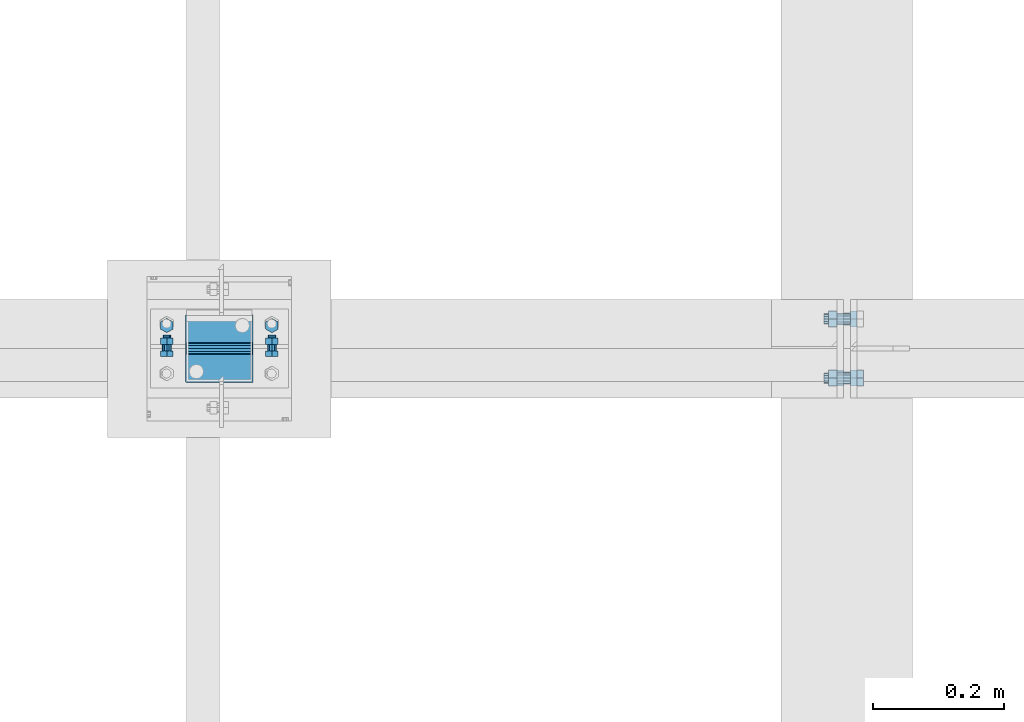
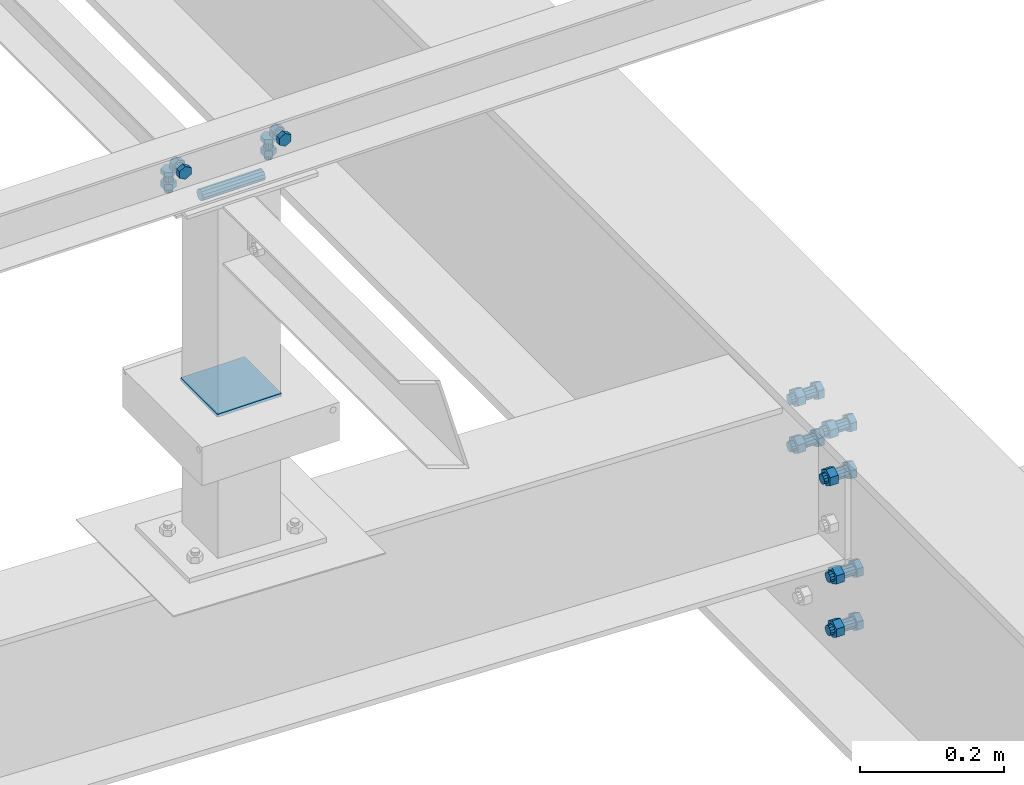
# One storey, part 78 of 3134: 7 mechanical fasteners, 3 elements without a shape of their own.
"""IFC2X3 building model written with IfcOpenShell, lengths in millimetres."""

from ifc_helpers import new_model, si_unit, frame, origin_with_axes, place, context, subcontext, project, spatial, faceted_brep, source, transform, mapped, material, type_object, element, aggregate, save


model = new_model("IFC2X3")

# Units and contexts
model_context = context("Model", 3, precision=1e-05, world=origin_with_axes())
body_context = subcontext(model_context, "Body", "Model", "MODEL_VIEW")
ifc_project = project(units=[si_unit("LENGTHUNIT", "METRE", prefix="MILLI"), si_unit("AREAUNIT", "SQUARE_METRE"), si_unit("VOLUMEUNIT", "CUBIC_METRE"), si_unit("MASSUNIT", "GRAM", prefix="KILO"), si_unit("TIMEUNIT", "SECOND"), si_unit("PLANEANGLEUNIT", "RADIAN"), si_unit("SOLIDANGLEUNIT", "STERADIAN"), si_unit("THERMODYNAMICTEMPERATUREUNIT", "DEGREE_CELSIUS"), si_unit("LUMINOUSINTENSITYUNIT", "LUMEN")], contexts=[model_context])

# Site, building, storey
site_placement = place(None, origin_with_axes())
site = spatial("IfcSite", under=ifc_project, at=site_placement, CompositionType="ELEMENT")
building_placement = place(site_placement, origin_with_axes())
building = spatial("IfcBuilding", under=site, at=building_placement, Name="Undefined", CompositionType="ELEMENT")
storey_placement = place(building_placement, origin_with_axes())
storey = spatial("IfcBuildingStorey", under=building, at=storey_placement, Name="Undefined", CompositionType="ELEMENT", Elevation=0.0)

# Assembly, mechanical fastener
assembly_1_placement = place(storey_placement, origin_with_axes())
assembly_1 = element("IfcElementAssembly", 1, at=assembly_1_placement, inside=storey, AssemblyPlace="NOTDEFINED", PredefinedType="RIGID_FRAME")
ifc_material_1 = material(Name="8.8")
mechanical_fastener_type = type_object("IfcMechanicalFastenerType", Name="Bolt assembly")
shared_shape_1 = source(origin_with_axes(), body_context, "Body", "Brep", [
    faceted_brep([(10.9696551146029, -14.0, 0.0), (5.48482755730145, -14.0, 9.5), (-5.48482755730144, -14.0, 9.5), (-10.9696551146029, -14.0, 1.34339530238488e-15), (-5.48482755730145, -14.0, -9.5), (5.48482755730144, -14.0, -9.50000000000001), (5.48482755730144, -6.0, -9.50000000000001), (-5.48482755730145, -6.0, -9.5), (-10.9696551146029, -6.0, 1.34339530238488e-15), (-5.48482755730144, -6.0, 9.5), (5.48482755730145, -6.0, 9.5), (10.9696551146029, -6.0, 0.0), (6.0, -6.0, 0.0), (5.19615242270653, -6.0, 3.00000000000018), (2.99999999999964, -6.0, 5.19615242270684), (-6.21801588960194e-13, -6.0, 6.0), (-3.00000000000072, -6.0, 5.19615242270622), (-5.19615242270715, -6.0, 2.9999999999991), (-6.0, -6.0, -1.24360317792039e-12), (-5.19615242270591, -6.0, -3.00000000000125), (-2.99999999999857, -6.0, -5.19615242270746), (1.85874342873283e-12, -6.0, -6.0), (3.00000000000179, -6.0, -5.1961524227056), (5.19615242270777, -6.0, -2.99999999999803), (5.19615242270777, 24.0, -2.99999999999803), (3.00000000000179, 24.0, -5.1961524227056), (1.85874342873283e-12, 24.0, -6.0), (-2.99999999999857, 24.0, -5.19615242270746), (-5.19615242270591, 24.0, -3.00000000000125), (-6.0, 24.0, -1.24360317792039e-12), (-5.19615242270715, 24.0, 2.9999999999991), (-3.00000000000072, 24.0, 5.19615242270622), (-6.21801588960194e-13, 24.0, 6.0), (2.99999999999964, 24.0, 5.19615242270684), (5.19615242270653, 24.0, 3.00000000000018), (6.0, 24.0, 0.0), (10.9696551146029, 6.00000000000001, 0.0), (5.48482755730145, 6.00000000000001, 9.5), (-5.48482755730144, 6.00000000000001, 9.5), (-10.9696551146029, 6.00000000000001, 1.34339530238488e-15), (-5.48482755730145, 6.00000000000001, -9.5), (5.48482755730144, 6.00000000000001, -9.50000000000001), (5.48482755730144, 16.0, -9.50000000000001), (-5.48482755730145, 16.0, -9.5), (-10.9696551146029, 16.0, 1.34339530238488e-15), (-5.48482755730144, 16.0, 9.5), (5.48482755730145, 16.0, 9.5), (10.9696551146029, 16.0, 0.0)], [[[0, 1, 2, 3, 4, 5]], [[6, 7, 8, 9, 10, 11]], [[0, 11, 10, 1]], [[1, 10, 9, 2]], [[2, 9, 8, 3]], [[3, 8, 7, 4]], [[4, 7, 6, 5]], [[5, 6, 11, 0]], [[12, 13, 14, 15, 16, 17, 18, 19, 20, 21, 22, 23]], [[24, 25, 26, 27, 28, 29, 30, 31, 32, 33, 34, 35]], [[12, 35, 34, 13]], [[13, 34, 33, 14]], [[14, 33, 32, 15]], [[15, 32, 31, 16]], [[16, 31, 30, 17]], [[17, 30, 29, 18]], [[18, 29, 28, 19]], [[19, 28, 27, 20]], [[20, 27, 26, 21]], [[21, 26, 25, 22]], [[22, 25, 24, 23]], [[23, 24, 35, 12]], [[36, 37, 38, 39, 40, 41]], [[42, 43, 44, 45, 46, 47]], [[36, 47, 46, 37]], [[37, 46, 45, 38]], [[38, 45, 44, 39]], [[39, 44, 43, 40]], [[40, 43, 42, 41]], [[41, 42, 47, 36]]]),
    faceted_brep([(7.0, -0.1, 0.0), (6.06217782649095, -0.1, 3.50000000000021), (3.49999999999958, -0.1, 6.06217782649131), (-7.25435187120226e-13, -0.1, 7.0), (-3.50000000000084, -0.1, 6.06217782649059), (-6.06217782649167, -0.1, 3.49999999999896), (-7.0, -0.1, -1.45087037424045e-12), (-6.06217782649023, -0.1, -3.50000000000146), (-3.49999999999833, -0.1, -6.06217782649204), (2.1685340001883e-12, -0.1, -7.0), (3.50000000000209, -0.1, -6.06217782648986), (6.0621778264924, -0.1, -3.4999999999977), (6.0621778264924, 6.00000000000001, -3.4999999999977), (3.50000000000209, 6.00000000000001, -6.06217782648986), (2.1685340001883e-12, 6.00000000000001, -7.0), (-3.49999999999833, 6.00000000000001, -6.06217782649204), (-6.06217782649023, 6.00000000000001, -3.50000000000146), (-7.0, 6.00000000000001, -1.45087037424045e-12), (-6.06217782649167, 6.00000000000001, 3.49999999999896), (-3.50000000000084, 6.00000000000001, 6.06217782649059), (-7.25435187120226e-13, 6.00000000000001, 7.0), (3.49999999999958, 6.00000000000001, 6.06217782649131), (6.06217782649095, 6.00000000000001, 3.50000000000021), (7.0, 6.00000000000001, 0.0), (7.0, -5.9, 0.0), (6.06217782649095, -5.9, 3.50000000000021), (3.49999999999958, -5.9, 6.06217782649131), (-7.25435187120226e-13, -5.9, 7.0), (-3.50000000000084, -5.9, 6.06217782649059), (-6.06217782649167, -5.9, 3.49999999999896), (-7.0, -5.9, -1.45087037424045e-12), (-6.06217782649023, -5.9, -3.50000000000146), (-3.49999999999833, -5.9, -6.06217782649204), (2.1685340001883e-12, -5.9, -7.0), (3.50000000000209, -5.9, -6.06217782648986), (6.0621778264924, -5.9, -3.4999999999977), (6.0621778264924, 0.0999999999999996, -3.4999999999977), (3.50000000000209, 0.0999999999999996, -6.06217782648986), (2.1685340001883e-12, 0.0999999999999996, -7.0), (-3.49999999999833, 0.0999999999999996, -6.06217782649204), (-6.06217782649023, 0.0999999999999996, -3.50000000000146), (-7.0, 0.0999999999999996, -1.45087037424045e-12), (-6.06217782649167, 0.0999999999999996, 3.49999999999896), (-3.50000000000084, 0.0999999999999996, 6.06217782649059), (-7.25435187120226e-13, 0.0999999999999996, 7.0), (3.49999999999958, 0.0999999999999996, 6.06217782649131), (6.06217782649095, 0.0999999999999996, 3.50000000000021), (7.0, 0.0999999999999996, 0.0)], [[[0, 1, 2, 3, 4, 5, 6, 7, 8, 9, 10, 11]], [[12, 13, 14, 15, 16, 17, 18, 19, 20, 21, 22, 23]], [[0, 23, 22, 1]], [[1, 22, 21, 2]], [[2, 21, 20, 3]], [[3, 20, 19, 4]], [[4, 19, 18, 5]], [[5, 18, 17, 6]], [[6, 17, 16, 7]], [[7, 16, 15, 8]], [[8, 15, 14, 9]], [[9, 14, 13, 10]], [[10, 13, 12, 11]], [[11, 12, 23, 0]], [[24, 25, 26, 27, 28, 29, 30, 31, 32, 33, 34, 35]], [[36, 37, 38, 39, 40, 41, 42, 43, 44, 45, 46, 47]], [[24, 47, 46, 25]], [[25, 46, 45, 26]], [[26, 45, 44, 27]], [[27, 44, 43, 28]], [[28, 43, 42, 29]], [[29, 42, 41, 30]], [[30, 41, 40, 31]], [[31, 40, 39, 32]], [[32, 39, 38, 33]], [[33, 38, 37, 34]], [[34, 37, 36, 35]], [[35, 36, 47, 24]]]),
])
mechanical_fastener_1_placement = place(assembly_1_placement, frame((8340.0, 22016.25, 4365.0), z_axis=(1.0, 0.0, 0.0), x_axis=(0.0, -1.0, 0.0)))
mechanical_fastener_1 = element("IfcMechanicalFastener", 2, at=mechanical_fastener_1_placement, type_object=mechanical_fastener_type, material=ifc_material_1, Name="Bolt assembly", NominalDiameter=12.0, NominalLength=30.0, context=body_context, shape_type="MappedRepresentation", body=[
    mapped(shared_shape_1, transform((0.0, -5.32963895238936e-10, -79.9999999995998))),
    mapped(shared_shape_1, transform((0.0, 5.3114490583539e-10, 79.9999999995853))),
])

# Assembly, mechanical fasteners
assembly_2_placement = place(storey_placement, origin_with_axes())
assembly_2 = element("IfcElementAssembly", 3, at=assembly_2_placement, inside=storey, Name="IPE500", AssemblyPlace="NOTDEFINED", PredefinedType="RIGID_FRAME")
shared_shape_2 = source(origin_with_axes(), body_context, "Body", "Brep", [
    faceted_brep([(13.856406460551, 0.0, 0.0), (6.92820323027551, 0.0, 12.0), (-6.92820323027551, 0.0, 12.0), (-13.856406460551, 0.0, 1.69692038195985e-15), (-6.92820323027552, 0.0, -12.0), (6.9282032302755, 0.0, -12.0), (6.9282032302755, 9.99999995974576, -12.0), (-6.92820323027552, 9.99999995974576, -12.0), (-13.856406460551, 9.99999995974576, 1.69692038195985e-15), (-6.92820323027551, 9.99999995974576, 12.0), (6.92820323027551, 9.99999995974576, 12.0), (13.856406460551, 9.99999995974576, 0.0), (8.0, 9.99999995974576, 0.0), (6.92820323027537, 9.99999995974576, 4.00000000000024), (3.99999999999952, 9.99999995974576, 6.92820323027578), (-8.29068785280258e-13, 9.99999995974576, 8.0), (-4.00000000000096, 9.99999995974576, 6.92820323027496), (-6.9282032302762, 9.99999995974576, 3.99999999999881), (-8.0, 9.99999995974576, -1.65813757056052e-12), (-6.92820323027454, 9.99999995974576, -4.00000000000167), (-3.99999999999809, 9.99999995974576, -6.92820323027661), (2.47832457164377e-12, 9.99999995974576, -8.0), (4.00000000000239, 9.99999995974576, -6.92820323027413), (6.92820323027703, 9.99999995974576, -3.99999999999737), (6.92820323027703, 49.9999999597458, -3.99999999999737), (4.00000000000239, 49.9999999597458, -6.92820323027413), (2.47832457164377e-12, 49.9999999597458, -8.0), (-3.99999999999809, 49.9999999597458, -6.92820323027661), (-6.92820323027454, 49.9999999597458, -4.00000000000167), (-8.0, 49.9999999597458, -1.65813757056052e-12), (-6.9282032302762, 49.9999999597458, 3.99999999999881), (-4.00000000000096, 49.9999999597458, 6.92820323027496), (-8.29068785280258e-13, 49.9999999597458, 8.0), (3.99999999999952, 49.9999999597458, 6.92820323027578), (6.92820323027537, 49.9999999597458, 4.00000000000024), (8.0, 49.9999999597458, 0.0), (13.856406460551, 30.1999997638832, 0.0), (6.92820323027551, 30.1999997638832, 12.0), (-6.92820323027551, 30.1999997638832, 12.0), (-13.856406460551, 30.1999997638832, 1.69692038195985e-15), (-6.92820323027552, 30.1999997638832, -12.0), (6.9282032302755, 30.1999997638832, -12.0), (6.9282032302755, 43.1999997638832, -12.0), (-6.92820323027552, 43.1999997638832, -12.0), (-13.856406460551, 43.1999997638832, 1.69692038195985e-15), (-6.92820323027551, 43.1999997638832, 12.0), (6.92820323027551, 43.1999997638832, 12.0), (13.856406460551, 43.1999997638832, 0.0)], [[[0, 1, 2, 3, 4, 5]], [[6, 7, 8, 9, 10, 11]], [[0, 11, 10, 1]], [[1, 10, 9, 2]], [[2, 9, 8, 3]], [[3, 8, 7, 4]], [[4, 7, 6, 5]], [[5, 6, 11, 0]], [[12, 13, 14, 15, 16, 17, 18, 19, 20, 21, 22, 23]], [[24, 25, 26, 27, 28, 29, 30, 31, 32, 33, 34, 35]], [[12, 35, 34, 13]], [[13, 34, 33, 14]], [[14, 33, 32, 15]], [[15, 32, 31, 16]], [[16, 31, 30, 17]], [[17, 30, 29, 18]], [[18, 29, 28, 19]], [[19, 28, 27, 20]], [[20, 27, 26, 21]], [[21, 26, 25, 22]], [[22, 25, 24, 23]], [[23, 24, 35, 12]], [[36, 37, 38, 39, 40, 41]], [[42, 43, 44, 45, 46, 47]], [[36, 47, 46, 37]], [[37, 46, 45, 38]], [[38, 45, 44, 39]], [[39, 44, 43, 40]], [[40, 43, 42, 41]], [[41, 42, 47, 36]]]),
    faceted_brep([(9.0, 20.0999997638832, 0.0), (7.79422863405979, 20.0999997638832, 4.50000000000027), (4.49999999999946, 20.0999997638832, 7.79422863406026), (-9.3270238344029e-13, 20.0999997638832, 9.0), (-4.50000000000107, 20.0999997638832, 7.79422863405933), (-7.79422863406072, 20.0999997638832, 4.49999999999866), (-9.0, 20.0999997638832, -1.86540476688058e-12), (-7.79422863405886, 20.0999997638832, -4.50000000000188), (-4.49999999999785, 20.0999997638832, -7.79422863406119), (2.78811514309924e-12, 20.0999997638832, -9.0), (4.50000000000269, 20.0999997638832, -7.7942286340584), (7.79422863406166, 20.0999997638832, -4.49999999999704), (7.79422863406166, 30.1999997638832, -4.49999999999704), (4.50000000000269, 30.1999997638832, -7.7942286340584), (2.78811514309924e-12, 30.1999997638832, -9.0), (-4.49999999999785, 30.1999997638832, -7.79422863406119), (-7.79422863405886, 30.1999997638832, -4.50000000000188), (-9.0, 30.1999997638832, -1.86540476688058e-12), (-7.79422863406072, 30.1999997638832, 4.49999999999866), (-4.50000000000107, 30.1999997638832, 7.79422863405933), (-9.3270238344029e-13, 30.1999997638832, 9.0), (4.49999999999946, 30.1999997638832, 7.79422863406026), (7.79422863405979, 30.1999997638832, 4.50000000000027), (9.0, 30.1999997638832, 0.0), (9.0, 10.1000023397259, 0.0), (7.79422863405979, 10.1000023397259, 4.50000000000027), (4.49999999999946, 10.1000023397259, 7.79422863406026), (-9.3270238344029e-13, 10.1000023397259, 9.0), (-4.50000000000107, 10.1000023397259, 7.79422863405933), (-7.79422863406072, 10.1000023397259, 4.49999999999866), (-9.0, 10.1000023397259, -1.86540476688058e-12), (-7.79422863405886, 10.1000023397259, -4.50000000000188), (-4.49999999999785, 10.1000023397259, -7.79422863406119), (2.78811514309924e-12, 10.1000023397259, -9.0), (4.50000000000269, 10.1000023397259, -7.7942286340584), (7.79422863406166, 10.1000023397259, -4.49999999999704), (7.79422863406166, 20.2999997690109, -4.49999999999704), (4.50000000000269, 20.2999997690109, -7.7942286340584), (2.78811514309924e-12, 20.2999997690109, -9.0), (-4.49999999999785, 20.2999997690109, -7.79422863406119), (-7.79422863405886, 20.2999997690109, -4.50000000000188), (-9.0, 20.2999997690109, -1.86540476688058e-12), (-7.79422863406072, 20.2999997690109, 4.49999999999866), (-4.50000000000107, 20.2999997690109, 7.79422863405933), (-9.3270238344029e-13, 20.2999997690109, 9.0), (4.49999999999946, 20.2999997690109, 7.79422863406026), (7.79422863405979, 20.2999997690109, 4.50000000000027), (9.0, 20.2999997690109, 0.0)], [[[0, 1, 2, 3, 4, 5, 6, 7, 8, 9, 10, 11]], [[12, 13, 14, 15, 16, 17, 18, 19, 20, 21, 22, 23]], [[0, 23, 22, 1]], [[1, 22, 21, 2]], [[2, 21, 20, 3]], [[3, 20, 19, 4]], [[4, 19, 18, 5]], [[5, 18, 17, 6]], [[6, 17, 16, 7]], [[7, 16, 15, 8]], [[8, 15, 14, 9]], [[9, 14, 13, 10]], [[10, 13, 12, 11]], [[11, 12, 23, 0]], [[24, 25, 26, 27, 28, 29, 30, 31, 32, 33, 34, 35]], [[36, 37, 38, 39, 40, 41, 42, 43, 44, 45, 46, 47]], [[24, 47, 46, 25]], [[25, 46, 45, 26]], [[26, 45, 44, 27]], [[27, 44, 43, 28]], [[28, 43, 42, 29]], [[29, 42, 41, 30]], [[30, 41, 40, 31]], [[31, 40, 39, 32]], [[32, 39, 38, 33]], [[33, 38, 37, 34]], [[34, 37, 36, 35]], [[35, 36, 47, 24]]]),
])
mechanical_fastener_2_placement = place(assembly_2_placement, frame((9310.09999986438, 21936.25, 3631.67000001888), z_axis=(0.0, 1.0, 0.0), x_axis=(0.0, 0.0, -1.0)))
mechanical_fastener_2 = element("IfcMechanicalFastener", 4, at=mechanical_fastener_2_placement, type_object=mechanical_fastener_type, material=ifc_material_1, Name="Bolt assembly", NominalDiameter=16.0, NominalLength=40.0, context=body_context, shape_type="MappedRepresentation", body=[
    mapped(shared_shape_2, transform((0.0, 0.0, 0.0))),
    mapped(shared_shape_2, transform((80.0, 0.0, 0.0))),
])
mechanical_fastener_3_placement = place(assembly_2_placement, frame((9310.09999986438, 22026.25, 3631.67000001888), z_axis=(0.0, 1.0, 0.0), x_axis=(0.0, 0.0, -1.0)))
mechanical_fastener_3 = element("IfcMechanicalFastener", 5, at=mechanical_fastener_3_placement, type_object=mechanical_fastener_type, material=ifc_material_1, Name="Bolt assembly", NominalDiameter=16.0, NominalLength=40.0, context=body_context, shape_type="MappedRepresentation", body=[
    mapped(shared_shape_2, transform((0.0, 0.0, 0.0))),
    mapped(shared_shape_2, transform((80.0, 0.0, 0.0))),
])
shared_shape_3 = source(origin_with_axes(), body_context, "Body", "Brep", [
    faceted_brep([(13.856406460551, -10.0, 0.0), (6.92820323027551, -10.0, 12.0), (-6.92820323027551, -10.0, 12.0), (-13.856406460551, -10.0, 1.69692038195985e-15), (-6.92820323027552, -10.0, -12.0), (6.9282032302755, -10.0, -12.0), (6.9282032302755, 0.0, -12.0), (-6.92820323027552, 0.0, -12.0), (-13.856406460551, 0.0, 1.69692038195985e-15), (-6.92820323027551, 0.0, 12.0), (6.92820323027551, 0.0, 12.0), (13.856406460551, 0.0, 0.0), (8.0, 0.0, 0.0), (6.92820323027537, 0.0, 4.00000000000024), (3.99999999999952, 0.0, 6.92820323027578), (-8.29068785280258e-13, 0.0, 8.0), (-4.00000000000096, 0.0, 6.92820323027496), (-6.9282032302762, 0.0, 3.99999999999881), (-8.0, 0.0, -1.65813757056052e-12), (-6.92820323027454, 0.0, -4.00000000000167), (-3.99999999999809, 0.0, -6.92820323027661), (2.47832457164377e-12, 0.0, -8.0), (4.00000000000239, 0.0, -6.92820323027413), (6.92820323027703, 0.0, -3.99999999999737), (6.92820323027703, 40.0, -3.99999999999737), (4.00000000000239, 40.0, -6.92820323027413), (2.47832457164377e-12, 40.0, -8.0), (-3.99999999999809, 40.0, -6.92820323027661), (-6.92820323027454, 40.0, -4.00000000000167), (-8.0, 40.0, -1.65813757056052e-12), (-6.9282032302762, 40.0, 3.99999999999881), (-4.00000000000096, 40.0, 6.92820323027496), (-8.29068785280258e-13, 40.0, 8.0), (3.99999999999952, 40.0, 6.92820323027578), (6.92820323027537, 40.0, 4.00000000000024), (8.0, 40.0, 0.0), (13.856406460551, 20.1999997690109, 0.0), (6.92820323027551, 20.1999997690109, 12.0), (-6.92820323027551, 20.1999997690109, 12.0), (-13.856406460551, 20.1999997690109, 1.69692038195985e-15), (-6.92820323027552, 20.1999997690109, -12.0), (6.9282032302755, 20.1999997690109, -12.0), (6.9282032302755, 33.1999997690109, -12.0), (-6.92820323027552, 33.1999997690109, -12.0), (-13.856406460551, 33.1999997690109, 1.69692038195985e-15), (-6.92820323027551, 33.1999997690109, 12.0), (6.92820323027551, 33.1999997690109, 12.0), (13.856406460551, 33.1999997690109, 0.0)], [[[0, 1, 2, 3, 4, 5]], [[6, 7, 8, 9, 10, 11]], [[0, 11, 10, 1]], [[1, 10, 9, 2]], [[2, 9, 8, 3]], [[3, 8, 7, 4]], [[4, 7, 6, 5]], [[5, 6, 11, 0]], [[12, 13, 14, 15, 16, 17, 18, 19, 20, 21, 22, 23]], [[24, 25, 26, 27, 28, 29, 30, 31, 32, 33, 34, 35]], [[12, 35, 34, 13]], [[13, 34, 33, 14]], [[14, 33, 32, 15]], [[15, 32, 31, 16]], [[16, 31, 30, 17]], [[17, 30, 29, 18]], [[18, 29, 28, 19]], [[19, 28, 27, 20]], [[20, 27, 26, 21]], [[21, 26, 25, 22]], [[22, 25, 24, 23]], [[23, 24, 35, 12]], [[36, 37, 38, 39, 40, 41]], [[42, 43, 44, 45, 46, 47]], [[36, 47, 46, 37]], [[37, 46, 45, 38]], [[38, 45, 44, 39]], [[39, 44, 43, 40]], [[40, 43, 42, 41]], [[41, 42, 47, 36]]]),
    faceted_brep([(9.0, 0.100000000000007, 0.0), (7.79422863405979, 0.100000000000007, 4.50000000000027), (4.49999999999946, 0.100000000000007, 7.79422863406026), (-9.3270238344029e-13, 0.100000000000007, 9.0), (-4.50000000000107, 0.100000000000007, 7.79422863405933), (-7.79422863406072, 0.100000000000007, 4.49999999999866), (-9.0, 0.100000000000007, -1.86540476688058e-12), (-7.79422863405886, 0.100000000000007, -4.50000000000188), (-4.49999999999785, 0.100000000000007, -7.79422863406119), (2.78811514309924e-12, 0.100000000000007, -9.0), (4.50000000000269, 0.100000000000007, -7.7942286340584), (7.79422863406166, 0.100000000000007, -4.49999999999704), (7.79422863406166, 10.1000023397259, -4.49999999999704), (4.50000000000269, 10.1000023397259, -7.7942286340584), (2.78811514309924e-12, 10.1000023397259, -9.0), (-4.49999999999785, 10.1000023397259, -7.79422863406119), (-7.79422863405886, 10.1000023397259, -4.50000000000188), (-9.0, 10.1000023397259, -1.86540476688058e-12), (-7.79422863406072, 10.1000023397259, 4.49999999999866), (-4.50000000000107, 10.1000023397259, 7.79422863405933), (-9.3270238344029e-13, 10.1000023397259, 9.0), (4.49999999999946, 10.1000023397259, 7.79422863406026), (7.79422863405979, 10.1000023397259, 4.50000000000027), (9.0, 10.1000023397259, 0.0), (9.0, 9.89999999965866, 0.0), (7.79422863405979, 9.89999999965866, 4.50000000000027), (4.49999999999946, 9.89999999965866, 7.79422863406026), (-9.3270238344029e-13, 9.89999999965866, 9.0), (-4.50000000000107, 9.89999999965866, 7.79422863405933), (-7.79422863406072, 9.89999999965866, 4.49999999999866), (-9.0, 9.89999999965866, -1.86540476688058e-12), (-7.79422863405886, 9.89999999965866, -4.50000000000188), (-4.49999999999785, 9.89999999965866, -7.79422863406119), (2.78811514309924e-12, 9.89999999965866, -9.0), (4.50000000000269, 9.89999999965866, -7.7942286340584), (7.79422863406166, 9.89999999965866, -4.49999999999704), (7.79422863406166, 20.1999997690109, -4.49999999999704), (4.50000000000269, 20.1999997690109, -7.7942286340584), (2.78811514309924e-12, 20.1999997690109, -9.0), (-4.49999999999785, 20.1999997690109, -7.79422863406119), (-7.79422863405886, 20.1999997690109, -4.50000000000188), (-9.0, 20.1999997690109, -1.86540476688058e-12), (-7.79422863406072, 20.1999997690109, 4.49999999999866), (-4.50000000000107, 20.1999997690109, 7.79422863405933), (-9.3270238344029e-13, 20.1999997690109, 9.0), (4.49999999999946, 20.1999997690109, 7.79422863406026), (7.79422863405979, 20.1999997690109, 4.50000000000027), (9.0, 20.1999997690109, 0.0)], [[[0, 1, 2, 3, 4, 5, 6, 7, 8, 9, 10, 11]], [[12, 13, 14, 15, 16, 17, 18, 19, 20, 21, 22, 23]], [[0, 23, 22, 1]], [[1, 22, 21, 2]], [[2, 21, 20, 3]], [[3, 20, 19, 4]], [[4, 19, 18, 5]], [[5, 18, 17, 6]], [[6, 17, 16, 7]], [[7, 16, 15, 8]], [[8, 15, 14, 9]], [[9, 14, 13, 10]], [[10, 13, 12, 11]], [[11, 12, 23, 0]], [[24, 25, 26, 27, 28, 29, 30, 31, 32, 33, 34, 35]], [[36, 37, 38, 39, 40, 41, 42, 43, 44, 45, 46, 47]], [[24, 47, 46, 25]], [[25, 46, 45, 26]], [[26, 45, 44, 27]], [[27, 44, 43, 28]], [[28, 43, 42, 29]], [[29, 42, 41, 30]], [[30, 41, 40, 31]], [[31, 40, 39, 32]], [[32, 39, 38, 33]], [[33, 38, 37, 34]], [[34, 37, 36, 35]], [[35, 36, 47, 24]]]),
])
mechanical_fastener_4_placement = place(assembly_2_placement, frame((9310.09999986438, 21936.25, 3381.67000001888), z_axis=(0.0, 1.0, 0.0), x_axis=(0.0, 0.0, -1.0)))
mechanical_fastener_4 = element("IfcMechanicalFastener", 6, at=mechanical_fastener_4_placement, type_object=mechanical_fastener_type, material=ifc_material_1, Name="Bolt assembly", NominalDiameter=16.0, NominalLength=40.0, context=body_context, shape_type="MappedRepresentation", body=[
    mapped(shared_shape_3, transform((0.0, 0.0, 0.0))),
    mapped(shared_shape_3, transform((90.0, 0.0, 0.0))),
])
aggregate(assembly_2, [mechanical_fastener_2, mechanical_fastener_3, mechanical_fastener_4])

assembly_3_placement = place(storey_placement, origin_with_axes())
assembly_3 = element("IfcElementAssembly", 7, at=assembly_3_placement, inside=storey, AssemblyPlace="NOTDEFINED", PredefinedType="RIGID_FRAME")
shared_shape_4 = source(origin_with_axes(), body_context, "Body", "Brep", [
    faceted_brep([(9.0, -50.0, 0.0), (7.79422863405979, -50.0, 4.50000000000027), (4.49999999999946, -50.0, 7.79422863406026), (-9.3270238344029e-13, -50.0, 9.0), (-4.50000000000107, -50.0, 7.79422863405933), (-7.79422863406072, -50.0, 4.49999999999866), (-9.0, -50.0, -1.86540476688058e-12), (-7.79422863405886, -50.0, -4.50000000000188), (-4.49999999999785, -50.0, -7.79422863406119), (2.78811514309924e-12, -50.0, -9.0), (4.50000000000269, -50.0, -7.7942286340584), (7.79422863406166, -50.0, -4.49999999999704), (7.79422863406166, 50.1, -4.49999999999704), (4.50000000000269, 50.1, -7.7942286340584), (2.78811514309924e-12, 50.1, -9.0), (-4.49999999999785, 50.1, -7.79422863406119), (-7.79422863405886, 50.1, -4.50000000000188), (-9.0, 50.1, -1.86540476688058e-12), (-7.79422863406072, 50.1, 4.49999999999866), (-4.50000000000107, 50.1, 7.79422863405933), (-9.3270238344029e-13, 50.1, 9.0), (4.49999999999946, 50.1, 7.79422863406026), (7.79422863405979, 50.1, 4.50000000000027), (9.0, 50.1, 0.0)], [[[0, 1, 2, 3, 4, 5, 6, 7, 8, 9, 10, 11]], [[12, 13, 14, 15, 16, 17, 18, 19, 20, 21, 22, 23]], [[0, 23, 22, 1]], [[1, 22, 21, 2]], [[2, 21, 20, 3]], [[3, 20, 19, 4]], [[4, 19, 18, 5]], [[5, 18, 17, 6]], [[6, 17, 16, 7]], [[7, 16, 15, 8]], [[8, 15, 14, 9]], [[9, 14, 13, 10]], [[10, 13, 12, 11]], [[11, 12, 23, 0]]]),
])
mechanical_fastener_5_placement = place(assembly_3_placement, frame((8340.0, 21981.25, 4345.0), z_axis=(0.0, 1.0, 0.0), x_axis=(0.0, 0.0, 1.0)))
mechanical_fastener_5 = element("IfcMechanicalFastener", 8, at=mechanical_fastener_5_placement, type_object=mechanical_fastener_type, material=ifc_material_1, Name="Bolt assembly", NominalDiameter=16.0, NominalLength=100.0, context=body_context, shape_type="MappedRepresentation", body=[
    mapped(shared_shape_4, transform((0.0, 0.0, 0.0))),
])
ifc_material_2 = material(Name="6.8")
shared_shape_5 = source(origin_with_axes(), body_context, "Body", "Brep", [
    faceted_brep([(51.5, 1.36424205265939e-12, 50.0), (51.3858192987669, 1.36424205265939e-12, 50.5740251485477), (51.0606601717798, 1.36424205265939e-12, 51.0606601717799), (50.5740251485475, 1.36424205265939e-12, 51.385819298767), (-50.0000000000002, 1.36424205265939e-12, 51.5), (-50.7500000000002, 1.36424205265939e-12, 51.2990381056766), (-51.2990381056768, 1.36424205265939e-12, 50.7499999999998), (-51.5, 1.36424205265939e-12, 49.9999999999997), (-51.5, 1.36424205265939e-12, -50.0000000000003), (-51.2990381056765, 1.36424205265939e-12, -50.7500000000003), (-50.7499999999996, 1.36424205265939e-12, -51.2990381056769), (-49.9999999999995, 1.36424205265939e-12, -51.5), (50.0000000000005, 1.36424205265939e-12, -51.5), (50.7500000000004, 1.36424205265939e-12, -51.2990381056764), (51.2990381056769, 1.36424205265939e-12, -50.7499999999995), (51.5, 1.36424205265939e-12, -49.9999999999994), (51.5, 5.10000000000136, -49.9999999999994), (51.2990381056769, 5.10000000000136, -50.7499999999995), (50.7500000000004, 5.10000000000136, -51.2990381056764), (50.0000000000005, 5.10000000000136, -51.5), (-49.9999999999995, 5.10000000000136, -51.5), (-50.7499999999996, 5.10000000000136, -51.2990381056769), (-51.2990381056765, 5.10000000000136, -50.7500000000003), (-51.5, 5.10000000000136, -50.0000000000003), (-51.5, 5.10000000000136, 49.9999999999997), (-51.2990381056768, 5.10000000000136, 50.7499999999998), (-50.7500000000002, 5.10000000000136, 51.2990381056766), (-50.0000000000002, 5.10000000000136, 51.5), (50.5740251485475, 5.10000000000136, 51.385819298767), (51.0606601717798, 5.10000000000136, 51.0606601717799), (51.3858192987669, 5.10000000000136, 50.5740251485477), (51.5, 5.10000000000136, 50.0)], [[[0, 1, 2, 3, 4, 5, 6, 7, 8, 9, 10, 11, 12, 13, 14, 15]], [[16, 17, 18, 19, 20, 21, 22, 23, 24, 25, 26, 27, 28, 29, 30, 31]], [[0, 31, 30, 1]], [[1, 30, 29, 2]], [[2, 29, 28, 3]], [[3, 28, 27, 4]], [[4, 27, 26, 5]], [[5, 26, 25, 6]], [[6, 25, 24, 7]], [[7, 24, 23, 8]], [[8, 23, 22, 9]], [[9, 22, 21, 10]], [[10, 21, 20, 11]], [[11, 20, 19, 12]], [[12, 19, 18, 13]], [[13, 18, 17, 14]], [[14, 17, 16, 15]], [[15, 16, 31, 0]]]),
])
mechanical_fastener_6_placement = place(assembly_3_placement, frame((8340.0, 21981.25, 4004.89), z_axis=(0.0, -1.0, 0.0), x_axis=(-1.0, 0.0, 0.0)))
mechanical_fastener_6 = element("IfcMechanicalFastener", 9, at=mechanical_fastener_6_placement, type_object=mechanical_fastener_type, material=ifc_material_2, Name="Bolt assembly", NominalDiameter=10.0, NominalLength=5.0, context=body_context, shape_type="MappedRepresentation", body=[
    mapped(shared_shape_5, transform((0.0, 0.0, 0.0))),
])
aggregate(assembly_3, [mechanical_fastener_5, mechanical_fastener_6])

# Mechanical fastener
shared_shape_6 = source(origin_with_axes(), body_context, "Body", "Brep", [
    faceted_brep([(10.9696551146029, -12.0, 0.0), (5.48482755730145, -12.0, 9.5), (-5.48482755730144, -12.0, 9.5), (-10.9696551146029, -12.0, 1.34339530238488e-15), (-5.48482755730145, -12.0, -9.5), (5.48482755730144, -12.0, -9.50000000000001), (5.48482755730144, -4.0, -9.50000000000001), (-5.48482755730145, -4.0, -9.5), (-10.9696551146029, -4.0, 1.34339530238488e-15), (-5.48482755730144, -4.0, 9.5), (5.48482755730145, -4.0, 9.5), (10.9696551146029, -4.0, 0.0), (6.0, -4.0, 0.0), (5.19615242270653, -4.0, 3.00000000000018), (2.99999999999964, -4.0, 5.19615242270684), (-6.21801588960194e-13, -4.0, 6.0), (-3.00000000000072, -4.0, 5.19615242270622), (-5.19615242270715, -4.0, 2.9999999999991), (-6.0, -4.0, -1.24360317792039e-12), (-5.19615242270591, -4.0, -3.00000000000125), (-2.99999999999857, -4.0, -5.19615242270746), (1.85874342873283e-12, -4.0, -6.0), (3.00000000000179, -4.0, -5.1961524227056), (5.19615242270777, -4.0, -2.99999999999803), (5.19615242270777, 21.0, -2.99999999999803), (3.00000000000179, 21.0, -5.1961524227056), (1.85874342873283e-12, 21.0, -6.0), (-2.99999999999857, 21.0, -5.19615242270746), (-5.19615242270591, 21.0, -3.00000000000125), (-6.0, 21.0, -1.24360317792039e-12), (-5.19615242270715, 21.0, 2.9999999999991), (-3.00000000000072, 21.0, 5.19615242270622), (-6.21801588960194e-13, 21.0, 6.0), (2.99999999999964, 21.0, 5.19615242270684), (5.19615242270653, 21.0, 3.00000000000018), (6.0, 21.0, 0.0), (10.9696551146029, 6.00000000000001, 0.0), (5.48482755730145, 6.00000000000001, 9.5), (-5.48482755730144, 6.00000000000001, 9.5), (-10.9696551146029, 6.00000000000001, 1.34339530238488e-15), (-5.48482755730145, 6.00000000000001, -9.5), (5.48482755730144, 6.00000000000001, -9.50000000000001), (5.48482755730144, 16.0, -9.50000000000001), (-5.48482755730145, 16.0, -9.5), (-10.9696551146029, 16.0, 1.34339530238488e-15), (-5.48482755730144, 16.0, 9.5), (5.48482755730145, 16.0, 9.5), (10.9696551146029, 16.0, 0.0)], [[[0, 1, 2, 3, 4, 5]], [[6, 7, 8, 9, 10, 11]], [[0, 11, 10, 1]], [[1, 10, 9, 2]], [[2, 9, 8, 3]], [[3, 8, 7, 4]], [[4, 7, 6, 5]], [[5, 6, 11, 0]], [[12, 13, 14, 15, 16, 17, 18, 19, 20, 21, 22, 23]], [[24, 25, 26, 27, 28, 29, 30, 31, 32, 33, 34, 35]], [[12, 35, 34, 13]], [[13, 34, 33, 14]], [[14, 33, 32, 15]], [[15, 32, 31, 16]], [[16, 31, 30, 17]], [[17, 30, 29, 18]], [[18, 29, 28, 19]], [[19, 28, 27, 20]], [[20, 27, 26, 21]], [[21, 26, 25, 22]], [[22, 25, 24, 23]], [[23, 24, 35, 12]], [[36, 37, 38, 39, 40, 41]], [[42, 43, 44, 45, 46, 47]], [[36, 47, 46, 37]], [[37, 46, 45, 38]], [[38, 45, 44, 39]], [[39, 44, 43, 40]], [[40, 43, 42, 41]], [[41, 42, 47, 36]]]),
    faceted_brep([(7.0, -3.9, 0.0), (6.06217782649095, -3.9, 3.50000000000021), (3.49999999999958, -3.9, 6.06217782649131), (-7.25435187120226e-13, -3.9, 7.0), (-3.50000000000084, -3.9, 6.06217782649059), (-6.06217782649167, -3.9, 3.49999999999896), (-7.0, -3.9, -1.45087037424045e-12), (-6.06217782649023, -3.9, -3.50000000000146), (-3.49999999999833, -3.9, -6.06217782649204), (2.1685340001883e-12, -3.9, -7.0), (3.50000000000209, -3.9, -6.06217782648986), (6.0621778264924, -3.9, -3.4999999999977), (6.0621778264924, 0.0999999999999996, -3.4999999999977), (3.50000000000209, 0.0999999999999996, -6.06217782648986), (2.1685340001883e-12, 0.0999999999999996, -7.0), (-3.49999999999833, 0.0999999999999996, -6.06217782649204), (-6.06217782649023, 0.0999999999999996, -3.50000000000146), (-7.0, 0.0999999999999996, -1.45087037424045e-12), (-6.06217782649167, 0.0999999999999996, 3.49999999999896), (-3.50000000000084, 0.0999999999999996, 6.06217782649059), (-7.25435187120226e-13, 0.0999999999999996, 7.0), (3.49999999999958, 0.0999999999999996, 6.06217782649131), (6.06217782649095, 0.0999999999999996, 3.50000000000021), (7.0, 0.0999999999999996, 0.0), (7.0, -0.1, 0.0), (6.06217782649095, -0.1, 3.50000000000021), (3.49999999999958, -0.1, 6.06217782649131), (-7.25435187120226e-13, -0.1, 7.0), (-3.50000000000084, -0.1, 6.06217782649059), (-6.06217782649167, -0.1, 3.49999999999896), (-7.0, -0.1, -1.45087037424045e-12), (-6.06217782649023, -0.1, -3.50000000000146), (-3.49999999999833, -0.1, -6.06217782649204), (2.1685340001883e-12, -0.1, -7.0), (3.50000000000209, -0.1, -6.06217782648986), (6.0621778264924, -0.1, -3.4999999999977), (6.0621778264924, 6.00000000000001, -3.4999999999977), (3.50000000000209, 6.00000000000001, -6.06217782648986), (2.1685340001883e-12, 6.00000000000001, -7.0), (-3.49999999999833, 6.00000000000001, -6.06217782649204), (-6.06217782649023, 6.00000000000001, -3.50000000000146), (-7.0, 6.00000000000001, -1.45087037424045e-12), (-6.06217782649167, 6.00000000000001, 3.49999999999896), (-3.50000000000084, 6.00000000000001, 6.06217782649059), (-7.25435187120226e-13, 6.00000000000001, 7.0), (3.49999999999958, 6.00000000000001, 6.06217782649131), (6.06217782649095, 6.00000000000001, 3.50000000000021), (7.0, 6.00000000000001, 0.0)], [[[0, 1, 2, 3, 4, 5, 6, 7, 8, 9, 10, 11]], [[12, 13, 14, 15, 16, 17, 18, 19, 20, 21, 22, 23]], [[0, 23, 22, 1]], [[1, 22, 21, 2]], [[2, 21, 20, 3]], [[3, 20, 19, 4]], [[4, 19, 18, 5]], [[5, 18, 17, 6]], [[6, 17, 16, 7]], [[7, 16, 15, 8]], [[8, 15, 14, 9]], [[9, 14, 13, 10]], [[10, 13, 12, 11]], [[11, 12, 23, 0]], [[24, 25, 26, 27, 28, 29, 30, 31, 32, 33, 34, 35]], [[36, 37, 38, 39, 40, 41, 42, 43, 44, 45, 46, 47]], [[24, 47, 46, 25]], [[25, 46, 45, 26]], [[26, 45, 44, 27]], [[27, 44, 43, 28]], [[28, 43, 42, 29]], [[29, 42, 41, 30]], [[30, 41, 40, 31]], [[31, 40, 39, 32]], [[32, 39, 38, 33]], [[33, 38, 37, 34]], [[34, 37, 36, 35]], [[35, 36, 47, 24]]]),
])
mechanical_fastener_7_placement = place(assembly_1_placement, frame((8340.0, 21981.25, 4400.0), z_axis=(1.0, 0.0, 0.0), x_axis=(0.0, 0.0, -1.0)))
mechanical_fastener_7 = element("IfcMechanicalFastener", 10, at=mechanical_fastener_7_placement, type_object=mechanical_fastener_type, material=ifc_material_1, Name="Bolt assembly", NominalDiameter=12.0, NominalLength=25.0, context=body_context, shape_type="MappedRepresentation", body=[
    mapped(shared_shape_6, transform((0.0, -5.32963895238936e-10, -79.9999999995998))),
    mapped(shared_shape_6, transform((0.0, 5.3114490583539e-10, 79.9999999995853))),
])

aggregate(assembly_1, [mechanical_fastener_7, mechanical_fastener_1])

save(model, "model.ifc")
